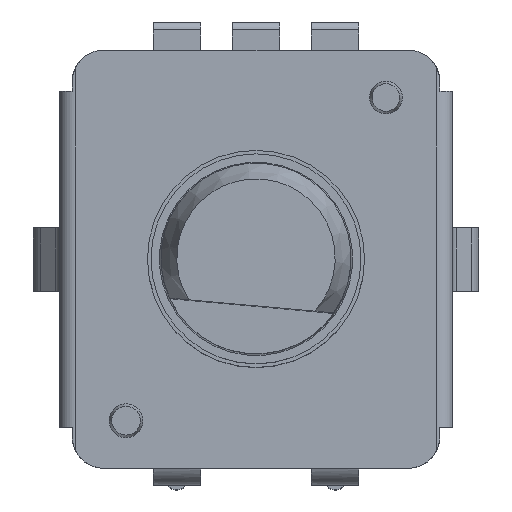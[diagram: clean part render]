
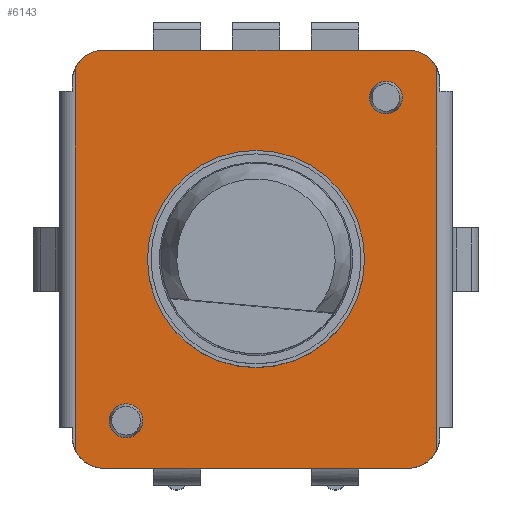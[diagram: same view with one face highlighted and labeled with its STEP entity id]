
A CAD part, top view. The second image highlights one B-rep face of the part: STEP entity #6143.
In plain terms, the highlighted planar face has unit normal (0, 0, 1).
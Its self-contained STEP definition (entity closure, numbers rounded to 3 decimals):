
#530=LINE($,#9724,#1254);
#548=LINE($,#9785,#1272);
#557=LINE($,#9819,#1281);
#558=LINE($,#9820,#1282);
#1254=VECTOR($,#7892,9.6);
#1272=VECTOR($,#7938,9.6);
#1281=VECTOR($,#7967,12.072);
#1282=VECTOR($,#7968,12.072);
#1647=PLANE($,#6622);
#1937=FACE_OUTER_BOUND($,#2251,.T.);
#2251=EDGE_LOOP($,(#5091,#5092,#5093,#5094,#5095,#5096,#5097,#5098));
#2468=CIRCLE($,#6597,1.);
#2469=CIRCLE($,#6601,1.);
#2474=CIRCLE($,#6611,1.);
#2475=CIRCLE($,#6614,1.);
#2966=VERTEX_POINT($,#9710);
#2968=VERTEX_POINT($,#9718);
#2969=VERTEX_POINT($,#9723);
#2972=VERTEX_POINT($,#9732);
#2984=VERTEX_POINT($,#9772);
#2985=VERTEX_POINT($,#9779);
#2986=VERTEX_POINT($,#9783);
#2988=VERTEX_POINT($,#9788);
#3760=EDGE_CURVE($,#2966,#2968,#2468,.T.);
#3763=EDGE_CURVE($,#2968,#2969,#530,.T.);
#3769=EDGE_CURVE($,#2969,#2972,#2469,.T.);
#3786=EDGE_CURVE($,#2984,#2985,#2474,.T.);
#3789=EDGE_CURVE($,#2985,#2986,#548,.T.);
#3792=EDGE_CURVE($,#2986,#2988,#2475,.T.);
#3804=EDGE_CURVE($,#2972,#2984,#557,.T.);
#3805=EDGE_CURVE($,#2988,#2966,#558,.T.);
#5091=ORIENTED_EDGE($,*,*,#3804,.F.);
#5092=ORIENTED_EDGE($,*,*,#3769,.F.);
#5093=ORIENTED_EDGE($,*,*,#3763,.F.);
#5094=ORIENTED_EDGE($,*,*,#3760,.F.);
#5095=ORIENTED_EDGE($,*,*,#3805,.F.);
#5096=ORIENTED_EDGE($,*,*,#3792,.F.);
#5097=ORIENTED_EDGE($,*,*,#3789,.F.);
#5098=ORIENTED_EDGE($,*,*,#3786,.F.);
#6143=ADVANCED_FACE($,(#1937),#1647,.T.);
#6597=AXIS2_PLACEMENT_3D($,#9719,#7886,#7887);
#6601=AXIS2_PLACEMENT_3D($,#9740,#7901,#7902);
#6611=AXIS2_PLACEMENT_3D($,#9780,#7932,#7933);
#6614=AXIS2_PLACEMENT_3D($,#9796,#7942,#7943);
#6622=AXIS2_PLACEMENT_3D($,#9818,#7965,#7966);
#7886=DIRECTION('center_axis',(0.,0.,
-1.));
#7887=DIRECTION('ref_axis',(0.707,-0.707,0.));
#7892=DIRECTION($,(-1.,0.,0.));
#7901=DIRECTION('center_axis',(0.,0.,
-1.));
#7902=DIRECTION('ref_axis',(-0.707,-0.707,0.));
#7932=DIRECTION('center_axis',(0.,0.,
-1.));
#7933=DIRECTION('ref_axis',(-0.707,0.707,0.));
#7938=DIRECTION($,(1.,0.,0.));
#7942=DIRECTION('center_axis',(0.,0.,
-1.));
#7943=DIRECTION('ref_axis',(0.707,0.707,0.));
#7965=DIRECTION('center_axis',(0.,0.,
1.));
#7966=DIRECTION('ref_axis',(1.,0.,0.));
#7967=DIRECTION($,(0.,1.,0.));
#7968=DIRECTION($,(0.,-1.,0.));
#9710=CARTESIAN_POINT('',(5.7,-6.036,6.1));
#9718=CARTESIAN_POINT('',(4.8,-6.6,6.1));
#9719=CARTESIAN_POINT('Origin',(4.8,-5.6,6.1));
#9723=CARTESIAN_POINT('',(-4.8,-6.6,6.1));
#9724=CARTESIAN_POINT($,(5.8,-6.6,6.1));
#9732=CARTESIAN_POINT('',(-5.7,-6.036,6.1));
#9740=CARTESIAN_POINT('Origin',(-4.8,-5.6,6.1));
#9772=CARTESIAN_POINT('',(-5.7,6.036,6.1));
#9779=CARTESIAN_POINT('',(-4.8,6.6,6.1));
#9780=CARTESIAN_POINT('Origin',(-4.8,5.6,6.1));
#9783=CARTESIAN_POINT('',(4.8,6.6,6.1));
#9785=CARTESIAN_POINT($,(-5.8,6.6,6.1));
#9788=CARTESIAN_POINT('',(5.7,6.036,6.1));
#9796=CARTESIAN_POINT('Origin',(4.8,5.6,6.1));
#9818=CARTESIAN_POINT('Origin',(0.,0.,
6.1));
#9819=CARTESIAN_POINT($,(-5.7,0.,6.1));
#9820=CARTESIAN_POINT($,(5.7,0.,6.1));
